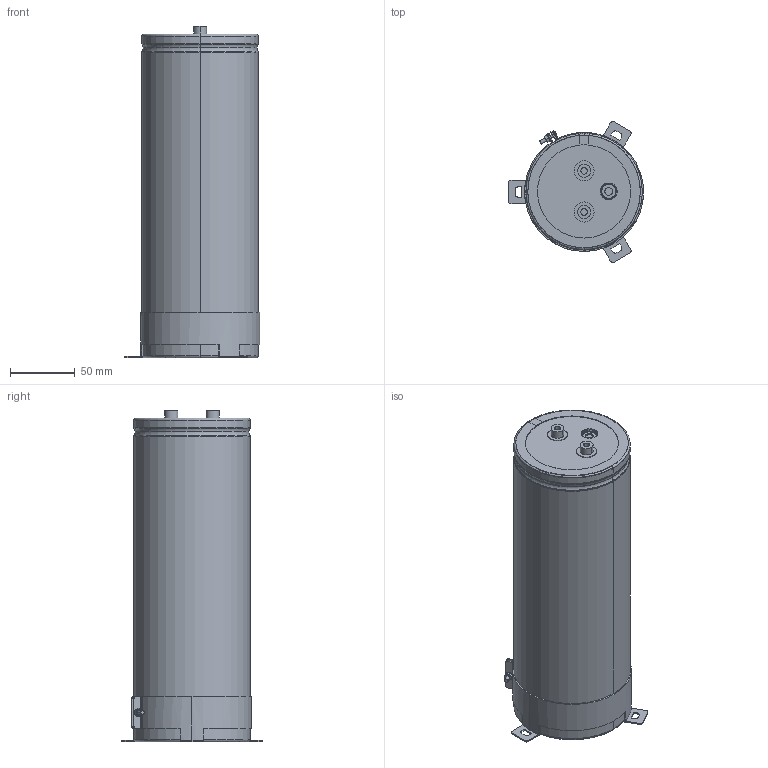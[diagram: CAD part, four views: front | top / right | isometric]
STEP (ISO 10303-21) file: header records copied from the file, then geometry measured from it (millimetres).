
FILE_DESCRIPTION(('STEP AP214'),'1');
FILE_NAME('90x250_Screw.stp','2022-03-14T08:39:18',(' '),(' '),'Spatial InterOp 3D',' ',' ');
FILE_SCHEMA(('AUTOMOTIVE_DESIGN { 1 0 10303 214 1 1 1 1 }'));
Length unit declared in the file: metre
Products named in the file (10): 90x250_Screw; Component1; Component2; Component3; Component4; Component5; Component6; Component7; Component8; Component9
Assembly tree (9 placements, depth 2):
  90x250_Screw
    Component1
    Component2
    Component3
    Component4
    Component5
    Component6
    Component7
    Component8
    Component9
Bounding box: 104.5 x 108.86 x 256 mm (x, y, z)
Volume: 1592991.6 mm3; surface area: 251016.5 mm2
Topology: 9 solids, 9 shells, 352 faces, 873 edges, 551 vertices
Faces by surface type: plane 112, cylinder 110, torus 90, cone 38, sphere 2
Entity records: 11474 total; most frequent: DIRECTION 2126, CARTESIAN_POINT 1918, ORIENTED_EDGE 1746, AXIS2_PLACEMENT_3D 919, EDGE_CURVE 873, VERTEX_POINT 551, CIRCLE 511, EDGE_LOOP 380
